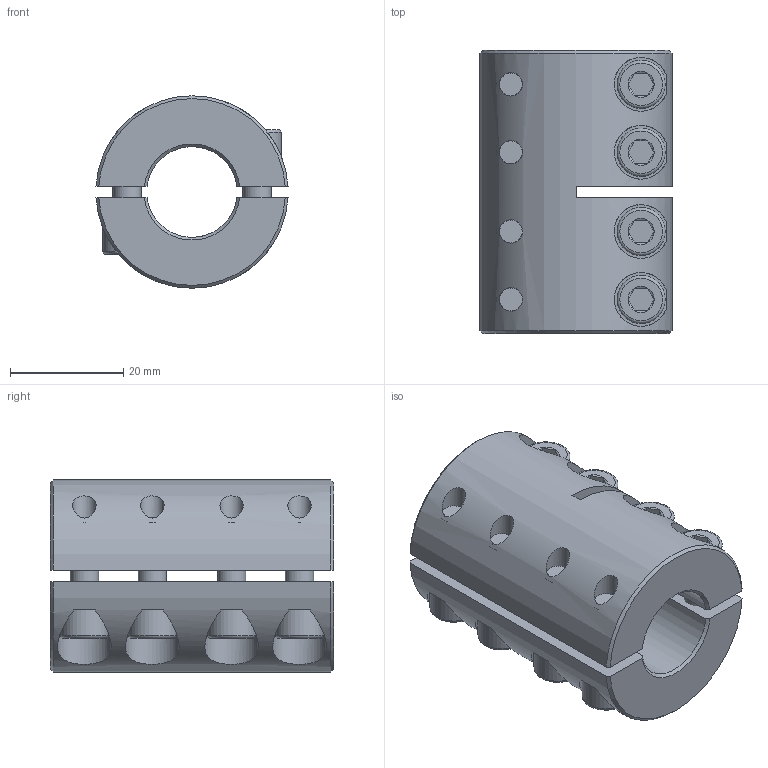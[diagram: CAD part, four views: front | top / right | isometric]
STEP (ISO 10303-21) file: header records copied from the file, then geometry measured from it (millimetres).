
FILE_DESCRIPTION( ( 'Unknown' ), '1' );
FILE_NAME( 'K:/Konstruktion/Fertigungszeichnungen/Schalenkupplung/KBST-G/KBST-G-16.stp', 'Unknown', ( 'Unknown' ), ( 'Unknown' ), 'PSStep 16.0.42', 'Unknown', ' ' );
FILE_SCHEMA( ( 'AUTOMOTIVE_DESIGN { 1 0 10303 214 1 1 1 1 }' ) );
Length unit declared in the file: millimetre
Products named in the file (4): Assem1; KBST-G-16; ISO EN DIN 4762 M5x16
Assembly tree (10 placements, depth 2):
  Assem1
    KBST-G-16
    KBST-G-16
    ISO EN DIN 4762 M5x16  x8
Bounding box: 33.94 x 50 x 34 mm (x, y, z)
Volume: 31766.2 mm3; surface area: 17500.5 mm2
Topology: 10 solids, 10 shells, 228 faces, 452 edges, 268 vertices
Faces by surface type: plane 104, cone 64, cylinder 44, torus 16
Full cylindrical faces by diameter (mm): 4.134 x8, 5 x8, 5.3 x8, 8.5 x8
Entity records: 3954 total; most frequent: CARTESIAN_POINT 1420, DIRECTION 374, ORIENTED_EDGE 318, AXIS2_PLACEMENT_3D 161, EDGE_CURVE 159, EDGE_LOOP 144, VERTEX_POINT 115, FACE_OUTER_BOUND 101
